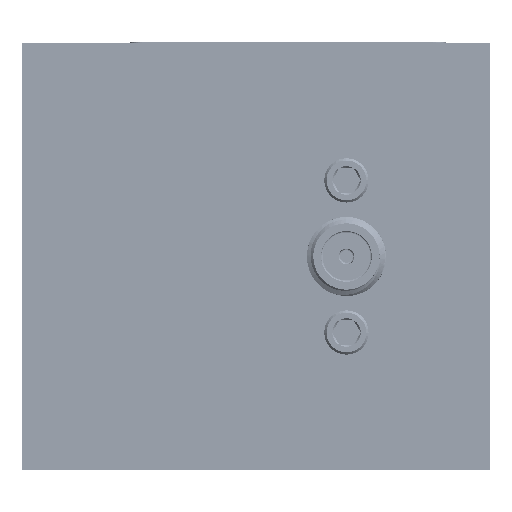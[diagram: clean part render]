
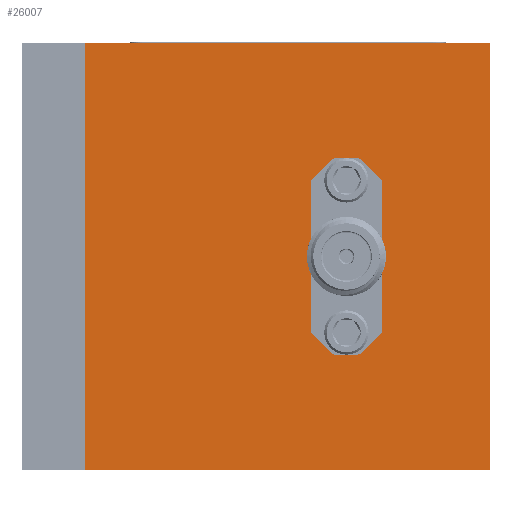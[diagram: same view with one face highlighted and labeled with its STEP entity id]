
A CAD part, left-side view. The second image highlights one B-rep face of the part: STEP entity #26007.
In plain terms, the highlighted planar face has unit normal (-1, 0, 0).
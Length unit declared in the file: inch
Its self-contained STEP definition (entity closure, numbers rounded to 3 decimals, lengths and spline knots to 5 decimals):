
#314 = ORIENTED_EDGE ( 'NONE', *, *, #27601, .F. ) ;
#3040 = DIRECTION ( 'NONE',  ( 0., 0., -1. ) ) ;
#3075 = VERTEX_POINT ( 'NONE', #111111 ) ;
#3452 = DIRECTION ( 'NONE',  ( 0., 0., 1. ) ) ;
#3736 = AXIS2_PLACEMENT_3D ( 'NONE', #40360, #56924, #91962 ) ;
#5594 = VERTEX_POINT ( 'NONE', #64712 ) ;
#9561 = EDGE_CURVE ( 'NONE', #13433, #5594, #51529, .T. ) ;
#9740 = VECTOR ( 'NONE', #108030, 39.37008 ) ;
#10603 = VERTEX_POINT ( 'NONE', #107385 ) ;
#11715 = CARTESIAN_POINT ( 'NONE',  ( -5.34, 0., -0.675 ) ) ;
#12071 = DIRECTION ( 'NONE',  ( 0., 0., 1. ) ) ;
#13433 = VERTEX_POINT ( 'NONE', #94321 ) ;
#14203 = EDGE_LOOP ( 'NONE', ( #35110, #51348 ) ) ;
#15229 = ORIENTED_EDGE ( 'NONE', *, *, #93425, .F. ) ;
#17241 = EDGE_CURVE ( 'NONE', #10603, #95887, #31651, .T. ) ;
#22336 = CARTESIAN_POINT ( 'NONE',  ( -5.34, 1.28, -0.675 ) ) ;
#23966 = EDGE_CURVE ( 'NONE', #53114, #58068, #40135, .T. ) ;
#26007 = ADVANCED_FACE ( 'NONE', ( #74280, #100095, #46221, #29082 ), #38241, .F. ) ;
#26297 = EDGE_CURVE ( 'NONE', #5594, #13433, #36188, .T. ) ;
#27601 = EDGE_CURVE ( 'NONE', #90076, #37105, #36762, .T. ) ;
#29082 = FACE_OUTER_BOUND ( 'NONE', #73675, .T. ) ;
#31421 = LINE ( 'NONE', #51390, #48974 ) ;
#31651 = CIRCLE ( 'NONE', #103068, 0.035 ) ;
#35110 = ORIENTED_EDGE ( 'NONE', *, *, #86840, .F. ) ;
#35837 = DIRECTION ( 'NONE',  ( 0., 0., 1. ) ) ;
#36188 = CIRCLE ( 'NONE', #100211, 0.085 ) ;
#36762 = CIRCLE ( 'NONE', #3736, 0.035 ) ;
#37105 = VERTEX_POINT ( 'NONE', #94587 ) ;
#37458 = DIRECTION ( 'NONE',  ( -1., 0., 0. ) ) ;
#38240 = VECTOR ( 'NONE', #62497, 39.37008 ) ;
#38241 = PLANE ( 'NONE',  #98363 ) ;
#40135 = LINE ( 'NONE', #75082, #76004 ) ;
#40360 = CARTESIAN_POINT ( 'NONE',  ( -5.34, 0.454, 0.2405 ) ) ;
#41319 = CARTESIAN_POINT ( 'NONE',  ( -5.34, 0.454, 0. ) ) ;
#43002 = CARTESIAN_POINT ( 'NONE',  ( -5.34, 1.28, 0.675 ) ) ;
#43595 = ORIENTED_EDGE ( 'NONE', *, *, #23966, .F. ) ;
#44778 = LINE ( 'NONE', #63067, #38240 ) ;
#46221 = FACE_BOUND ( 'NONE', #85878, .T. ) ;
#48974 = VECTOR ( 'NONE', #92712, 39.37008 ) ;
#51348 = ORIENTED_EDGE ( 'NONE', *, *, #17241, .F. ) ;
#51390 = CARTESIAN_POINT ( 'NONE',  ( -5.34, 1.28, -0.675 ) ) ;
#51529 = CIRCLE ( 'NONE', #97382, 0.085 ) ;
#53114 = VERTEX_POINT ( 'NONE', #22336 ) ;
#54055 = CARTESIAN_POINT ( 'NONE',  ( -5.34, 0.454, 0. ) ) ;
#54997 = CARTESIAN_POINT ( 'NONE',  ( -5.34, 0.454, 0.2755 ) ) ;
#56486 = DIRECTION ( 'NONE',  ( 0., 0., -1. ) ) ;
#56924 = DIRECTION ( 'NONE',  ( -1., 0., 0. ) ) ;
#58068 = VERTEX_POINT ( 'NONE', #43002 ) ;
#60427 = CARTESIAN_POINT ( 'NONE',  ( -5.34, 0.454, -0.2405 ) ) ;
#62127 = ORIENTED_EDGE ( 'NONE', *, *, #26297, .F. ) ;
#62497 = DIRECTION ( 'NONE',  ( 0., -1., 0. ) ) ;
#63067 = CARTESIAN_POINT ( 'NONE',  ( -5.34, 1.28, 0.675 ) ) ;
#63441 = CIRCLE ( 'NONE', #92785, 0.035 ) ;
#64712 = CARTESIAN_POINT ( 'NONE',  ( -5.34, 0.454, 0.085 ) ) ;
#66117 = CIRCLE ( 'NONE', #78939, 0.035 ) ;
#70502 = EDGE_LOOP ( 'NONE', ( #314, #15229 ) ) ;
#70985 = CARTESIAN_POINT ( 'NONE',  ( -5.34, 0.454, -0.2055 ) ) ;
#73675 = EDGE_LOOP ( 'NONE', ( #76309, #111233, #43595, #82015 ) ) ;
#74280 = FACE_BOUND ( 'NONE', #70502, .T. ) ;
#74330 = DIRECTION ( 'NONE',  ( -1., 0., 0. ) ) ;
#75082 = CARTESIAN_POINT ( 'NONE',  ( -5.34, 1.28, -0.675 ) ) ;
#76004 = VECTOR ( 'NONE', #12071, 39.37008 ) ;
#76297 = DIRECTION ( 'NONE',  ( -1., 0., 0. ) ) ;
#76309 = ORIENTED_EDGE ( 'NONE', *, *, #89588, .T. ) ;
#78939 = AXIS2_PLACEMENT_3D ( 'NONE', #60427, #112654, #35837 ) ;
#81979 = CARTESIAN_POINT ( 'NONE',  ( -5.34, 0.454, 0.2405 ) ) ;
#82015 = ORIENTED_EDGE ( 'NONE', *, *, #83100, .T. ) ;
#82939 = CARTESIAN_POINT ( 'NONE',  ( -5.34, 0.454, -0.2405 ) ) ;
#83100 = EDGE_CURVE ( 'NONE', #53114, #108412, #31421, .T. ) ;
#83511 = DIRECTION ( 'NONE',  ( 0., 0., 1. ) ) ;
#83911 = EDGE_CURVE ( 'NONE', #58068, #3075, #44778, .T. ) ;
#84340 = ORIENTED_EDGE ( 'NONE', *, *, #9561, .F. ) ;
#85878 = EDGE_LOOP ( 'NONE', ( #84340, #62127 ) ) ;
#86840 = EDGE_CURVE ( 'NONE', #95887, #10603, #66117, .T. ) ;
#89150 = LINE ( 'NONE', #11715, #9740 ) ;
#89588 = EDGE_CURVE ( 'NONE', #108412, #3075, #89150, .T. ) ;
#90076 = VERTEX_POINT ( 'NONE', #54997 ) ;
#90385 = DIRECTION ( 'NONE',  ( 1., 0., 0. ) ) ;
#91962 = DIRECTION ( 'NONE',  ( 0., 0., 1. ) ) ;
#92712 = DIRECTION ( 'NONE',  ( 0., -1., 0. ) ) ;
#92785 = AXIS2_PLACEMENT_3D ( 'NONE', #81979, #98061, #3452 ) ;
#93425 = EDGE_CURVE ( 'NONE', #37105, #90076, #63441, .T. ) ;
#94321 = CARTESIAN_POINT ( 'NONE',  ( -5.34, 0.454, -0.085 ) ) ;
#94587 = CARTESIAN_POINT ( 'NONE',  ( -5.34, 0.454, 0.2055 ) ) ;
#95887 = VERTEX_POINT ( 'NONE', #70985 ) ;
#97382 = AXIS2_PLACEMENT_3D ( 'NONE', #54055, #37458, #3040 ) ;
#98061 = DIRECTION ( 'NONE',  ( -1., 0., 0. ) ) ;
#98363 = AXIS2_PLACEMENT_3D ( 'NONE', #107582, #90385, #56486 ) ;
#100095 = FACE_BOUND ( 'NONE', #14203, .T. ) ;
#100211 = AXIS2_PLACEMENT_3D ( 'NONE', #41319, #76297, #111261 ) ;
#103068 = AXIS2_PLACEMENT_3D ( 'NONE', #82939, #74330, #83511 ) ;
#107385 = CARTESIAN_POINT ( 'NONE',  ( -5.34, 0.454, -0.2755 ) ) ;
#107582 = CARTESIAN_POINT ( 'NONE',  ( -5.34, 1.28, -0.675 ) ) ;
#108030 = DIRECTION ( 'NONE',  ( 0., 0., 1. ) ) ;
#108412 = VERTEX_POINT ( 'NONE', #109849 ) ;
#109849 = CARTESIAN_POINT ( 'NONE',  ( -5.34, 0., -0.675 ) ) ;
#111111 = CARTESIAN_POINT ( 'NONE',  ( -5.34, 0., 0.675 ) ) ;
#111233 = ORIENTED_EDGE ( 'NONE', *, *, #83911, .F. ) ;
#111261 = DIRECTION ( 'NONE',  ( 0., 0., -1. ) ) ;
#112654 = DIRECTION ( 'NONE',  ( -1., 0., 0. ) ) ;
